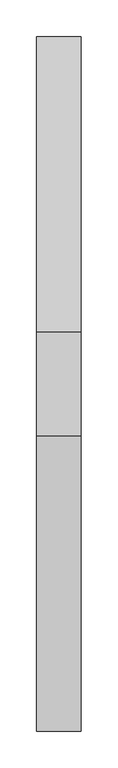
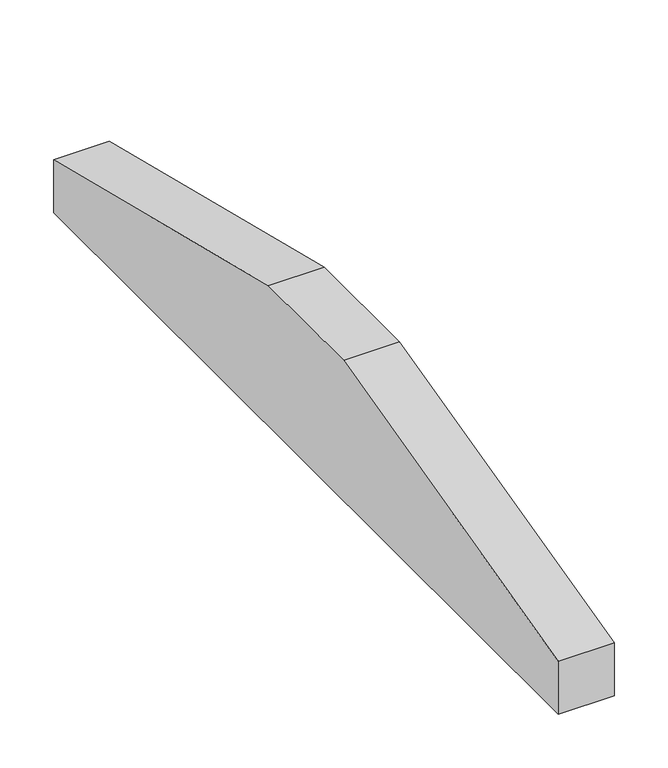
"""IFC4 building model written with IfcOpenShell, lengths in millimetres: proxy geometry, Modelos genéricos 172 : Modelos genéricos 144."""

from ifc_helpers import new_model, si_unit, frame, origin, place, context, project, spatial, polyline, outline, extrude, source, transform, mapped, element, save


def generic_models_20128fe8(model_context):
    return source(origin(), model_context, "Body", "SweptSolid", [
        extrude(outline(polyline([(2018.6238165, 4209.7515316), (2418.6238165, 4110.0203305), (2418.6238165, 4049.7515316), (1478.6238165, 4049.7515316), (1478.6238165, 4110.0203305), (1878.6238165, 4209.7515316), (2018.6238165, 4209.7515316)])), frame((69813.4472467, 0.0, 0.0), z_axis=(1.0, 0.0, 0.0), x_axis=(0.0, 1.0, 0.0)), (0.0, 0.0, 1.0), 60.0),
    ])


if __name__ == "__main__":
    model = new_model("IFC4")
    model_context = context("Model", 3, world=origin())
    ifc_project = project(units=[si_unit("LENGTHUNIT", "METRE", prefix="MILLI")], contexts=[model_context])
    site = spatial("IfcSite", under=ifc_project)
    building = spatial("IfcBuilding", under=site)
    placement = place(None, origin())
    generic_models_shape = generic_models_20128fe8(model_context)
    element("IfcBuildingElementProxy", 1, Name="Modelos genéricos 172 : Modelos genéricos 144", ObjectType="Modelos genéricos 172 : Modelos genéricos 144", at=placement, inside=building, context=model_context, shape_type="MappedRepresentation", body=[
        mapped(generic_models_shape, transform((0.0, 0.0, 0.0), x_axis=(1.0, 0.0, 0.0), y_axis=(0.0, 1.0, 0.0), z_axis=(0.0, 0.0, 1.0))),
    ])
    save(model, "model.ifc")
